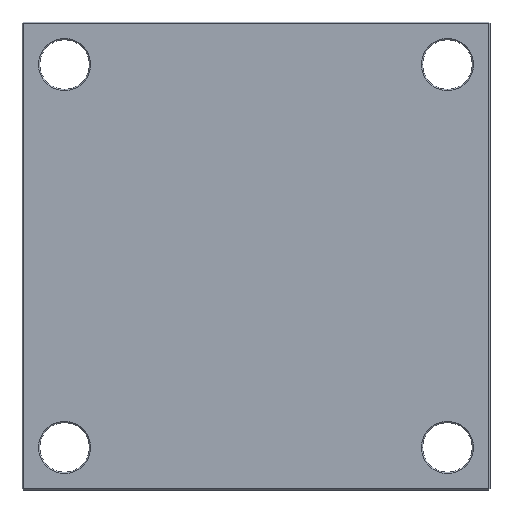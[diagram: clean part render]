
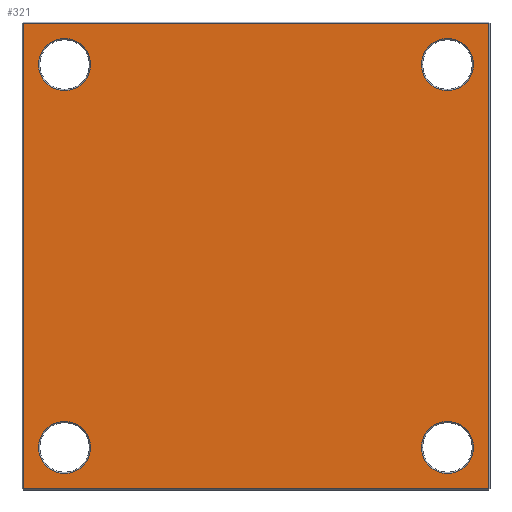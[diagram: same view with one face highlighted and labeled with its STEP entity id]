
A CAD part, front view. The second image highlights one B-rep face of the part: STEP entity #321.
In plain terms, the highlighted planar face has unit normal (0, -1, 0).
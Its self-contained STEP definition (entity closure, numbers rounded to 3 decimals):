
#2 = VERTEX_POINT ( 'NONE', #629 ) ;
#8 = AXIS2_PLACEMENT_3D ( 'NONE', #1883, #1280, #535 ) ;
#25 = CARTESIAN_POINT ( 'NONE',  ( -162., 0., 184. ) ) ;
#41 = CARTESIAN_POINT ( 'NONE',  ( -162., 0., 140. ) ) ;
#45 = EDGE_LOOP ( 'NONE', ( #683, #158, #2046, #1675 ) ) ;
#55 = VERTEX_POINT ( 'NONE', #41 ) ;
#59 = CIRCLE ( 'NONE', #1275, 22. ) ;
#71 = AXIS2_PLACEMENT_3D ( 'NONE', #2153, #1706, #2088 ) ;
#86 = VERTEX_POINT ( 'NONE', #25 ) ;
#89 = VERTEX_POINT ( 'NONE', #444 ) ;
#97 = EDGE_LOOP ( 'NONE', ( #1028, #468 ) ) ;
#104 = ORIENTED_EDGE ( 'NONE', *, *, #485, .T. ) ;
#109 = CIRCLE ( 'NONE', #1285, 22. ) ;
#151 = AXIS2_PLACEMENT_3D ( 'NONE', #1309, #1982, #1405 ) ;
#158 = ORIENTED_EDGE ( 'NONE', *, *, #409, .T. ) ;
#181 = VERTEX_POINT ( 'NONE', #1577 ) ;
#196 = CIRCLE ( 'NONE', #1317, 22. ) ;
#197 = EDGE_LOOP ( 'NONE', ( #521, #104 ) ) ;
#206 = AXIS2_PLACEMENT_3D ( 'NONE', #2170, #2178, #267 ) ;
#267 = DIRECTION ( 'NONE',  ( 0., 0., 1. ) ) ;
#311 = VERTEX_POINT ( 'NONE', #1138 ) ;
#321 = ADVANCED_FACE ( 'NONE', ( #2004, #2055, #1997, #2061, #2039 ), #1622, .F. ) ;
#364 = EDGE_CURVE ( 'NONE', #1659, #1158, #1896, .T. ) ;
#371 = EDGE_CURVE ( 'NONE', #2, #1659, #1911, .T. ) ;
#409 = EDGE_CURVE ( 'NONE', #1451, #2, #1890, .T. ) ;
#423 = AXIS2_PLACEMENT_3D ( 'NONE', #1236, #1593, #1339 ) ;
#437 = CARTESIAN_POINT ( 'NONE',  ( 197., 0., 197. ) ) ;
#444 = CARTESIAN_POINT ( 'NONE',  ( 162., 0., 140. ) ) ;
#456 = EDGE_CURVE ( 'NONE', #1158, #1451, #1810, .T. ) ;
#468 = ORIENTED_EDGE ( 'NONE', *, *, #547, .T. ) ;
#482 = EDGE_CURVE ( 'NONE', #86, #55, #1798, .T. ) ;
#485 = EDGE_CURVE ( 'NONE', #1611, #89, #1782, .T. ) ;
#499 = EDGE_CURVE ( 'NONE', #181, #1192, #1767, .T. ) ;
#521 = ORIENTED_EDGE ( 'NONE', *, *, #1772, .T. ) ;
#535 = DIRECTION ( 'NONE',  ( 0., 0., 1. ) ) ;
#547 = EDGE_CURVE ( 'NONE', #1109, #311, #1753, .T. ) ;
#629 = CARTESIAN_POINT ( 'NONE',  ( -197., 0., 197. ) ) ;
#631 = DIRECTION ( 'NONE',  ( 0., 0., 1. ) ) ;
#683 = ORIENTED_EDGE ( 'NONE', *, *, #456, .T. ) ;
#697 = ORIENTED_EDGE ( 'NONE', *, *, #1724, .T. ) ;
#751 = DIRECTION ( 'NONE',  ( 0., 1., 0. ) ) ;
#778 = CIRCLE ( 'NONE', #1126, 22. ) ;
#803 = CARTESIAN_POINT ( 'NONE',  ( -162., 0., -162. ) ) ;
#929 = DIRECTION ( 'NONE',  ( 0., 0., 1. ) ) ;
#939 = DIRECTION ( 'NONE',  ( 0., 1., 0. ) ) ;
#945 = CARTESIAN_POINT ( 'NONE',  ( 162., 0., -162. ) ) ;
#1028 = ORIENTED_EDGE ( 'NONE', *, *, #1842, .T. ) ;
#1109 = VERTEX_POINT ( 'NONE', #1447 ) ;
#1122 = CARTESIAN_POINT ( 'NONE',  ( 197., 0., 0. ) ) ;
#1126 = AXIS2_PLACEMENT_3D ( 'NONE', #803, #751, #631 ) ;
#1138 = CARTESIAN_POINT ( 'NONE',  ( -162., 0., -184. ) ) ;
#1158 = VERTEX_POINT ( 'NONE', #1567 ) ;
#1172 = CARTESIAN_POINT ( 'NONE',  ( 162., 0., -184. ) ) ;
#1192 = VERTEX_POINT ( 'NONE', #1172 ) ;
#1236 = CARTESIAN_POINT ( 'NONE',  ( 0., 0., 0. ) ) ;
#1275 = AXIS2_PLACEMENT_3D ( 'NONE', #945, #939, #929 ) ;
#1277 = DIRECTION ( 'NONE',  ( 0., 0., 1. ) ) ;
#1280 = DIRECTION ( 'NONE',  ( 0., 1., 0. ) ) ;
#1283 = DIRECTION ( 'NONE',  ( 0., 1., 0. ) ) ;
#1285 = AXIS2_PLACEMENT_3D ( 'NONE', #1289, #1283, #1277 ) ;
#1289 = CARTESIAN_POINT ( 'NONE',  ( 162., 0., 162. ) ) ;
#1309 = CARTESIAN_POINT ( 'NONE',  ( 162., 0., 162. ) ) ;
#1311 = EDGE_LOOP ( 'NONE', ( #697, #1615 ) ) ;
#1317 = AXIS2_PLACEMENT_3D ( 'NONE', #1924, #1912, #1888 ) ;
#1339 = DIRECTION ( 'NONE',  ( 0., 0., 1. ) ) ;
#1405 = DIRECTION ( 'NONE',  ( 0., 0., 1. ) ) ;
#1427 = CARTESIAN_POINT ( 'NONE',  ( 162., 0., 184. ) ) ;
#1447 = CARTESIAN_POINT ( 'NONE',  ( -162., 0., -140. ) ) ;
#1451 = VERTEX_POINT ( 'NONE', #437 ) ;
#1503 = DIRECTION ( 'NONE',  ( -1., 0., 0. ) ) ;
#1532 = ORIENTED_EDGE ( 'NONE', *, *, #499, .T. ) ;
#1567 = CARTESIAN_POINT ( 'NONE',  ( 197., 0., -197. ) ) ;
#1577 = CARTESIAN_POINT ( 'NONE',  ( 162., 0., -140. ) ) ;
#1593 = DIRECTION ( 'NONE',  ( 0., 1., 0. ) ) ;
#1611 = VERTEX_POINT ( 'NONE', #1427 ) ;
#1615 = ORIENTED_EDGE ( 'NONE', *, *, #482, .T. ) ;
#1622 = PLANE ( 'NONE',  #423 ) ;
#1625 = CARTESIAN_POINT ( 'NONE',  ( 0., 0., 197. ) ) ;
#1653 = ORIENTED_EDGE ( 'NONE', *, *, #1809, .T. ) ;
#1659 = VERTEX_POINT ( 'NONE', #1951 ) ;
#1675 = ORIENTED_EDGE ( 'NONE', *, *, #364, .T. ) ;
#1706 = DIRECTION ( 'NONE',  ( 0., 1., 0. ) ) ;
#1724 = EDGE_CURVE ( 'NONE', #55, #86, #196, .T. ) ;
#1727 = CARTESIAN_POINT ( 'NONE',  ( 0., 0., -197. ) ) ;
#1753 = CIRCLE ( 'NONE', #8, 22. ) ;
#1767 = CIRCLE ( 'NONE', #71, 22. ) ;
#1772 = EDGE_CURVE ( 'NONE', #89, #1611, #109, .T. ) ;
#1780 = DIRECTION ( 'NONE',  ( 0., 0., -1. ) ) ;
#1782 = CIRCLE ( 'NONE', #151, 22. ) ;
#1785 = VECTOR ( 'NONE', #2016, 1000. ) ;
#1788 = DIRECTION ( 'NONE',  ( 1., 0., 0. ) ) ;
#1798 = CIRCLE ( 'NONE', #206, 22. ) ;
#1809 = EDGE_CURVE ( 'NONE', #1192, #181, #59, .T. ) ;
#1810 = LINE ( 'NONE', #1122, #1785 ) ;
#1811 = CARTESIAN_POINT ( 'NONE',  ( -197., 0., 0. ) ) ;
#1827 = VECTOR ( 'NONE', #1503, 1000. ) ;
#1842 = EDGE_CURVE ( 'NONE', #311, #1109, #778, .T. ) ;
#1883 = CARTESIAN_POINT ( 'NONE',  ( -162., 0., -162. ) ) ;
#1888 = DIRECTION ( 'NONE',  ( 0., 0., 1. ) ) ;
#1890 = LINE ( 'NONE', #1625, #1827 ) ;
#1891 = VECTOR ( 'NONE', #1788, 1000. ) ;
#1896 = LINE ( 'NONE', #1727, #1891 ) ;
#1897 = VECTOR ( 'NONE', #1780, 1000. ) ;
#1911 = LINE ( 'NONE', #1811, #1897 ) ;
#1912 = DIRECTION ( 'NONE',  ( 0., 1., 0. ) ) ;
#1924 = CARTESIAN_POINT ( 'NONE',  ( -162., 0., 162. ) ) ;
#1951 = CARTESIAN_POINT ( 'NONE',  ( -197., 0., -197. ) ) ;
#1982 = DIRECTION ( 'NONE',  ( 0., 1., 0. ) ) ;
#1997 = FACE_BOUND ( 'NONE', #197, .T. ) ;
#2004 = FACE_BOUND ( 'NONE', #97, .T. ) ;
#2016 = DIRECTION ( 'NONE',  ( 0., 0., 1. ) ) ;
#2036 = EDGE_LOOP ( 'NONE', ( #1653, #1532 ) ) ;
#2039 = FACE_OUTER_BOUND ( 'NONE', #45, .T. ) ;
#2046 = ORIENTED_EDGE ( 'NONE', *, *, #371, .T. ) ;
#2055 = FACE_BOUND ( 'NONE', #2036, .T. ) ;
#2061 = FACE_BOUND ( 'NONE', #1311, .T. ) ;
#2088 = DIRECTION ( 'NONE',  ( 0., 0., 1. ) ) ;
#2153 = CARTESIAN_POINT ( 'NONE',  ( 162., 0., -162. ) ) ;
#2170 = CARTESIAN_POINT ( 'NONE',  ( -162., 0., 162. ) ) ;
#2178 = DIRECTION ( 'NONE',  ( 0., 1., 0. ) ) ;
